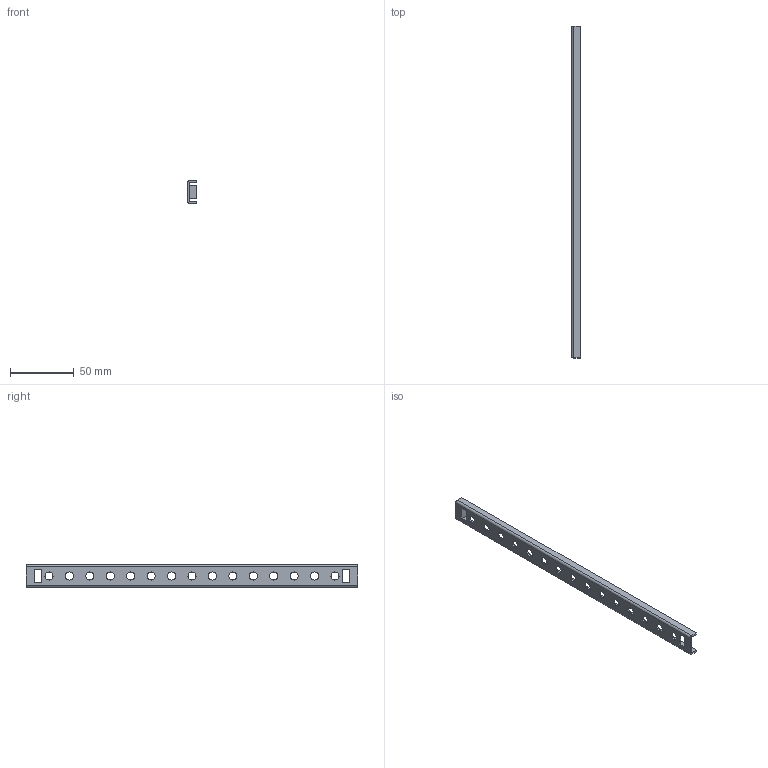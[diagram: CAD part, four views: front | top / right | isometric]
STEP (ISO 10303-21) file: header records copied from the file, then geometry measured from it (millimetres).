
FILE_DESCRIPTION (( 'STEP AP214' ), '1' );
FILE_NAME ('Verlaengerung_Mittelaufhaengung.STEP', '2010-10-07T05:21:35', ( 'Grass' ), ( '' ), 'SwSTEP 2.0', 'SolidWorks 2010', '' );
FILE_SCHEMA (( 'AUTOMOTIVE_DESIGN' ));
Length unit declared in the file: millimetre
Products named in the file (1): Verlaengerung_Mittelaufhaengung
Bounding box: 6.8 x 260 x 18 mm (x, y, z)
Volume: 9391.6 mm3; surface area: 15030.4 mm2
Topology: 1 solids, 1 shells, 58 faces, 164 edges, 108 vertices
Faces by surface type: cylinder 32, plane 26
Entity records: 2002 total; most frequent: DIRECTION 346, CARTESIAN_POINT 331, ORIENTED_EDGE 328, EDGE_CURVE 164, AXIS2_PLACEMENT_3D 123, VERTEX_POINT 108, VECTOR 100, LINE 100
